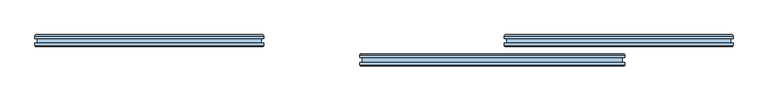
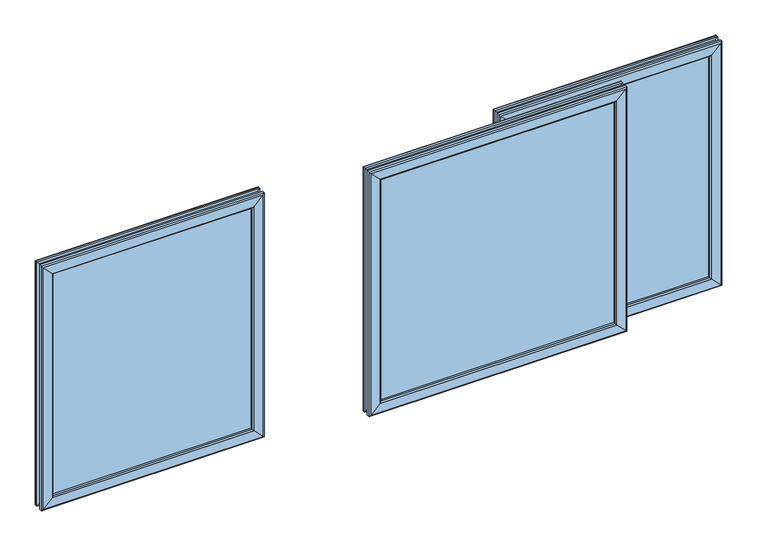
"""IFC4 building model written with IfcOpenShell, lengths in millimetres: window geometry, IT_Finestra scorrevole 3 ante con listelli tipo 2 : IT_Finestra scorrevole 3 ante con listelli tipo 2."""

from ifc_helpers import new_model, si_unit, frame, origin, place, context, project, spatial, polyline, ellipse_curve, outline, extrude, source, transform, mapped, element, save
from ifc_brep_helpers import plane_surface, cylinder_surface, advanced_brep


def window_61b1430e(model_context):
    return source(origin(), model_context, "Body", "SolidModel", [
        extrude(outline(polyline([(-568.829032, 130.0), (-1438.8576085, 130.0), (-1438.8576085, 150.0), (-568.829032, 150.0), (-568.829032, 130.0)])), frame((0.0, 0.0, 890.0), z_axis=(0.0, 0.0, 1.0), x_axis=(1.0, 0.0, 0.0)), (0.0, 0.0, 1.0), 1020.0),
        advanced_brep(
        [(-1473.8576085, 165.0, 1945.0), (-1433.8576085, 165.0, 1905.0), (-1433.8576085, 165.0, 895.0), (-1473.8576085, 165.0, 855.0), (-1478.8576085, 160.0, 1950.0), (-1478.8576085, 160.0, 850.0), (-1478.8576085, 150.0, 1950.0), (-1478.8576085, 150.0, 850.0), (-1468.886185, 150.0, 1940.0285765), (-1468.886185, 150.0, 859.9714235), (-1468.886185, 130.0, 1940.0285765), (-1468.886185, 130.0, 859.9714235), (-1478.8576085, 130.0, 1950.0), (-1478.8576085, 130.0, 850.0), (-1478.8576085, 120.0, 1950.0), (-1478.8576085, 120.0, 850.0), (-1473.8576085, 115.0, 1945.0), (-1473.8576085, 115.0, 855.0), (-1433.8576085, 115.0, 1905.0), (-1433.8576085, 115.0, 895.0), (-1428.8576085, 120.0, 1900.0), (-1428.8576085, 120.0, 900.0), (-1428.8576085, 130.0, 1900.0), (-1428.8576085, 130.0, 900.0), (-1438.8576085, 130.0, 1910.0), (-1438.8576085, 130.0, 890.0), (-1438.8576085, 150.0, 1910.0), (-1438.8576085, 150.0, 890.0), (-1428.8576085, 150.0, 1900.0), (-1428.8576085, 150.0, 900.0), (-1428.8576085, 160.0, 1900.0), (-1428.8576085, 160.0, 900.0), (-573.829032, 165.0, 895.0), (-533.829032, 165.0, 855.0), (-528.829032, 160.0, 850.0), (-528.829032, 150.0, 850.0), (-538.8004555, 150.0, 859.9714235), (-538.8004555, 130.0, 859.9714235), (-528.829032, 130.0, 850.0), (-528.829032, 120.0, 850.0), (-533.829032, 115.0, 855.0), (-573.829032, 115.0, 895.0), (-578.829032, 120.0, 900.0), (-578.829032, 130.0, 900.0), (-568.829032, 130.0, 890.0), (-568.829032, 150.0, 890.0), (-578.829032, 150.0, 900.0), (-578.829032, 160.0, 900.0), (-573.829032, 165.0, 1905.0), (-533.829032, 165.0, 1945.0), (-528.829032, 160.0, 1950.0), (-528.829032, 150.0, 1950.0), (-538.8004555, 150.0, 1940.0285765), (-538.8004555, 130.0, 1940.0285765), (-528.829032, 130.0, 1950.0), (-528.829032, 120.0, 1950.0), (-533.829032, 115.0, 1945.0), (-573.829032, 115.0, 1905.0), (-578.829032, 120.0, 1900.0), (-578.829032, 130.0, 1900.0), (-568.829032, 130.0, 1910.0), (-568.829032, 150.0, 1910.0), (-578.829032, 150.0, 1900.0), (-578.829032, 160.0, 1900.0)],
        [
            (0, 1),
            (1, 2),
            (2, 3),
            (3, 0),
            (4, 0, ellipse_curve(frame((-1473.8576085, 160.0, 1945.0), z_axis=(-0.7071067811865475, 0.0, -0.7071067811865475), x_axis=(-0.7071067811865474, 0.0, 0.7071067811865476)), 7.0710678, 5.0)),
            (3, 5, ellipse_curve(frame((-1473.8576085, 160.0, 855.0), z_axis=(-0.7071067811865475, 0.0, 0.7071067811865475), x_axis=(0.7071067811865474, 0.0, 0.7071067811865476)), 7.0710678, 5.0)),
            (5, 4),
            (6, 4),
            (5, 7),
            (7, 6),
            (8, 6),
            (7, 9),
            (9, 8),
            (10, 8),
            (9, 11),
            (11, 10),
            (12, 10),
            (11, 13),
            (13, 12),
            (14, 12),
            (13, 15),
            (15, 14),
            (16, 14, ellipse_curve(frame((-1473.8576085, 120.0, 1945.0), z_axis=(-0.7071067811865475, 0.0, -0.7071067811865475), x_axis=(-0.7071067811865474, 0.0, 0.7071067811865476)), 7.0710678, 5.0)),
            (15, 17, ellipse_curve(frame((-1473.8576085, 120.0, 855.0), z_axis=(-0.7071067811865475, 0.0, 0.7071067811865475), x_axis=(0.7071067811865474, 0.0, 0.7071067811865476)), 7.0710678, 5.0)),
            (17, 16),
            (18, 16),
            (17, 19),
            (19, 18),
            (20, 18, ellipse_curve(frame((-1433.8576085, 120.0, 1905.0), z_axis=(-0.7071067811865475, 0.0, -0.7071067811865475), x_axis=(-0.7071067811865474, 0.0, 0.7071067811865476)), 7.0710678, 5.0)),
            (19, 21, ellipse_curve(frame((-1433.8576085, 120.0, 895.0), z_axis=(-0.7071067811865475, 0.0, 0.7071067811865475), x_axis=(0.7071067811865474, 0.0, 0.7071067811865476)), 7.0710678, 5.0)),
            (21, 20),
            (22, 20),
            (21, 23),
            (23, 22),
            (24, 22),
            (23, 25),
            (25, 24),
            (26, 24),
            (25, 27),
            (27, 26),
            (28, 26),
            (27, 29),
            (29, 28),
            (30, 28),
            (29, 31),
            (31, 30),
            (1, 30, ellipse_curve(frame((-1433.8576085, 160.0, 1905.0), z_axis=(-0.7071067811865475, 0.0, -0.7071067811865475), x_axis=(-0.7071067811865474, 0.0, 0.7071067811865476)), 7.0710678, 5.0)),
            (31, 2, ellipse_curve(frame((-1433.8576085, 160.0, 895.0), z_axis=(-0.7071067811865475, 0.0, 0.7071067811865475), x_axis=(0.7071067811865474, 0.0, 0.7071067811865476)), 7.0710678, 5.0)),
            (2, 32),
            (32, 33),
            (33, 3),
            (33, 34, ellipse_curve(frame((-533.829032, 160.0, 855.0), z_axis=(-0.7071067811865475, 0.0, -0.7071067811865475), x_axis=(-0.7071067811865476, 0.0, 0.7071067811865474)), 7.0710678, 5.0)),
            (34, 5),
            (34, 35),
            (35, 7),
            (35, 36),
            (36, 9),
            (36, 37),
            (37, 11),
            (37, 38),
            (38, 13),
            (38, 39),
            (39, 15),
            (39, 40, ellipse_curve(frame((-533.829032, 120.0, 855.0), z_axis=(-0.7071067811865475, 0.0, -0.7071067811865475), x_axis=(-0.7071067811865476, 0.0, 0.7071067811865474)), 7.0710678, 5.0)),
            (40, 17),
            (40, 41),
            (41, 19),
            (41, 42, ellipse_curve(frame((-573.829032, 120.0, 895.0), z_axis=(-0.7071067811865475, 0.0, -0.7071067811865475), x_axis=(-0.7071067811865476, 0.0, 0.7071067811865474)), 7.0710678, 5.0)),
            (42, 21),
            (42, 43),
            (43, 23),
            (43, 44),
            (44, 25),
            (44, 45),
            (45, 27),
            (45, 46),
            (46, 29),
            (46, 47),
            (47, 31),
            (47, 32, ellipse_curve(frame((-573.829032, 160.0, 895.0), z_axis=(-0.7071067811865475, 0.0, -0.7071067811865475), x_axis=(-0.7071067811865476, 0.0, 0.7071067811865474)), 7.0710678, 5.0)),
            (32, 48),
            (48, 49),
            (49, 33),
            (49, 50, ellipse_curve(frame((-533.829032, 160.0, 1945.0), z_axis=(0.7071067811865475, 0.0, -0.7071067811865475), x_axis=(-0.7071067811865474, 0.0, -0.7071067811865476)), 7.0710678, 5.0)),
            (50, 34),
            (50, 51),
            (51, 35),
            (51, 52),
            (52, 36),
            (52, 53),
            (53, 37),
            (53, 54),
            (54, 38),
            (54, 55),
            (55, 39),
            (55, 56, ellipse_curve(frame((-533.829032, 120.0, 1945.0), z_axis=(0.7071067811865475, 0.0, -0.7071067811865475), x_axis=(-0.7071067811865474, 0.0, -0.7071067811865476)), 7.0710678, 5.0)),
            (56, 40),
            (56, 57),
            (57, 41),
            (57, 58, ellipse_curve(frame((-573.829032, 120.0, 1905.0), z_axis=(0.7071067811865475, 0.0, -0.7071067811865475), x_axis=(-0.7071067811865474, 0.0, -0.7071067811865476)), 7.0710678, 5.0)),
            (58, 42),
            (58, 59),
            (59, 43),
            (59, 60),
            (60, 44),
            (60, 61),
            (61, 45),
            (61, 62),
            (62, 46),
            (62, 63),
            (63, 47),
            (63, 48, ellipse_curve(frame((-573.829032, 160.0, 1905.0), z_axis=(0.7071067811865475, 0.0, -0.7071067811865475), x_axis=(-0.7071067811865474, 0.0, -0.7071067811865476)), 7.0710678, 5.0)),
            (48, 1),
            (0, 49),
            (4, 50),
            (6, 51),
            (8, 52),
            (10, 53),
            (12, 54),
            (14, 55),
            (16, 56),
            (18, 57),
            (20, 58),
            (22, 59),
            (24, 60),
            (26, 61),
            (28, 62),
            (30, 63),
        ],
        [
            plane_surface(frame((-1433.8576085, 165.0, 1905.0), z_axis=(0.0, 1.0, 0.0), x_axis=(0.0, 0.0, -1.0))),
            cylinder_surface(frame((-1473.8576085, 160.0, 1950.0), z_axis=(0.0, 0.0, 1.0), x_axis=(1.0, 0.0, 0.0)), 5.0),
            plane_surface(frame((-1478.8576085, 160.0, 1950.0), z_axis=(-1.0, 0.0, 0.0), x_axis=(0.0, 0.0, -1.0))),
            plane_surface(frame((-1478.8576085, 150.0, 1950.0), z_axis=(0.0, -1.0, 0.0), x_axis=(0.0, 0.0, -1.0))),
            plane_surface(frame((-1468.886185, 150.0, 1940.0285765), z_axis=(-1.0, 0.0, 0.0), x_axis=(0.0, 0.0, -1.0))),
            plane_surface(frame((-1468.886185, 130.0, 1940.0285765), z_axis=(0.0, 1.0, 0.0), x_axis=(0.0, 0.0, -1.0))),
            plane_surface(frame((-1478.8576085, 130.0, 1950.0), z_axis=(-1.0, 0.0, 0.0), x_axis=(0.0, 0.0, -1.0))),
            cylinder_surface(frame((-1473.8576085, 120.0, 1950.0), z_axis=(0.0, 0.0, 1.0), x_axis=(1.0, 0.0, 0.0)), 5.0),
            plane_surface(frame((-1473.8576085, 115.0, 1945.0), z_axis=(0.0, -1.0, 0.0), x_axis=(0.0, 0.0, -1.0))),
            cylinder_surface(frame((-1433.8576085, 120.0, 1950.0), z_axis=(0.0, 0.0, 1.0), x_axis=(1.0, 0.0, 0.0)), 5.0),
            plane_surface(frame((-1428.8576085, 120.0, 1900.0), z_axis=(1.0, 0.0, 0.0), x_axis=(0.0, 0.0, -1.0))),
            plane_surface(frame((-1428.8576085, 130.0, 1900.0), z_axis=(0.0, 1.0, 0.0), x_axis=(0.0, 0.0, -1.0))),
            plane_surface(frame((-1438.8576085, 130.0, 1910.0), z_axis=(1.0, 0.0, 0.0), x_axis=(0.0, 0.0, -1.0))),
            plane_surface(frame((-1438.8576085, 150.0, 1910.0), z_axis=(0.0, -1.0, 0.0), x_axis=(0.0, 0.0, -1.0))),
            plane_surface(frame((-1428.8576085, 150.0, 1900.0), z_axis=(1.0, 0.0, 0.0), x_axis=(0.0, 0.0, -1.0))),
            cylinder_surface(frame((-1433.8576085, 160.0, 1950.0), z_axis=(0.0, 0.0, 1.0), x_axis=(1.0, 0.0, 0.0)), 5.0),
            plane_surface(frame((-1433.8576085, 165.0, 895.0), z_axis=(0.0, 1.0, 0.0), x_axis=(1.0, 0.0, 0.0))),
            cylinder_surface(frame((-1478.8576085, 160.0, 855.0), z_axis=(-1.0, 0.0, 0.0), x_axis=(0.0, 0.0, 1.0)), 5.0),
            plane_surface(frame((-1478.8576085, 160.0, 850.0), z_axis=(0.0, 0.0, -1.0), x_axis=(1.0, 0.0, 0.0))),
            plane_surface(frame((-1478.8576085, 150.0, 850.0), z_axis=(0.0, -1.0, 0.0), x_axis=(1.0, 0.0, 0.0))),
            plane_surface(frame((-1468.886185, 150.0, 859.9714235), z_axis=(0.0, 0.0, -1.0), x_axis=(1.0, 0.0, 0.0))),
            plane_surface(frame((-1468.886185, 130.0, 859.9714235), z_axis=(0.0, 1.0, 0.0), x_axis=(1.0, 0.0, 0.0))),
            plane_surface(frame((-1478.8576085, 130.0, 850.0), z_axis=(0.0, 0.0, -1.0), x_axis=(1.0, 0.0, 0.0))),
            cylinder_surface(frame((-1478.8576085, 120.0, 855.0), z_axis=(-1.0, 0.0, 0.0), x_axis=(0.0, 0.0, 1.0)), 5.0),
            plane_surface(frame((-1473.8576085, 115.0, 855.0), z_axis=(0.0, -1.0, 0.0), x_axis=(1.0, 0.0, 0.0))),
            cylinder_surface(frame((-1478.8576085, 120.0, 895.0), z_axis=(-1.0, 0.0, 0.0), x_axis=(0.0, 0.0, 1.0)), 5.0),
            plane_surface(frame((-1428.8576085, 120.0, 900.0), z_axis=(0.0, 0.0, 1.0), x_axis=(1.0, 0.0, 0.0))),
            plane_surface(frame((-1428.8576085, 130.0, 900.0), z_axis=(0.0, 1.0, 0.0), x_axis=(1.0, 0.0, 0.0))),
            plane_surface(frame((-1438.8576085, 130.0, 890.0), z_axis=(0.0, 0.0, 1.0), x_axis=(1.0, 0.0, 0.0))),
            plane_surface(frame((-1438.8576085, 150.0, 890.0), z_axis=(0.0, -1.0, 0.0), x_axis=(1.0, 0.0, 0.0))),
            plane_surface(frame((-1428.8576085, 150.0, 900.0), z_axis=(0.0, 0.0, 1.0), x_axis=(1.0, 0.0, 0.0))),
            cylinder_surface(frame((-1478.8576085, 160.0, 895.0), z_axis=(-1.0, 0.0, 0.0), x_axis=(0.0, 0.0, 1.0)), 5.0),
            plane_surface(frame((-573.829032, 165.0, 895.0), z_axis=(0.0, 1.0, 0.0), x_axis=(0.0, 0.0, 1.0))),
            cylinder_surface(frame((-533.829032, 160.0, 850.0), z_axis=(0.0, 0.0, -1.0), x_axis=(-1.0, 0.0, 0.0)), 5.0),
            plane_surface(frame((-528.829032, 160.0, 850.0), z_axis=(1.0, 0.0, 0.0), x_axis=(0.0, 0.0, 1.0))),
            plane_surface(frame((-528.829032, 150.0, 850.0), z_axis=(0.0, -1.0, 0.0), x_axis=(0.0, 0.0, 1.0))),
            plane_surface(frame((-538.8004555, 150.0, 859.9714235), z_axis=(1.0, 0.0, 0.0), x_axis=(0.0, 0.0, 1.0))),
            plane_surface(frame((-538.8004555, 130.0, 859.9714235), z_axis=(0.0, 1.0, 0.0), x_axis=(0.0, 0.0, 1.0))),
            plane_surface(frame((-528.829032, 130.0, 850.0), z_axis=(1.0, 0.0, 0.0), x_axis=(0.0, 0.0, 1.0))),
            cylinder_surface(frame((-533.829032, 120.0, 850.0), z_axis=(0.0, 0.0, -1.0), x_axis=(-1.0, 0.0, 0.0)), 5.0),
            plane_surface(frame((-533.829032, 115.0, 855.0), z_axis=(0.0, -1.0, 0.0), x_axis=(0.0, 0.0, 1.0))),
            cylinder_surface(frame((-573.829032, 120.0, 850.0), z_axis=(0.0, 0.0, -1.0), x_axis=(-1.0, 0.0, 0.0)), 5.0),
            plane_surface(frame((-578.829032, 120.0, 900.0), z_axis=(-1.0, 0.0, 0.0), x_axis=(0.0, 0.0, 1.0))),
            plane_surface(frame((-578.829032, 130.0, 900.0), z_axis=(0.0, 1.0, 0.0), x_axis=(0.0, 0.0, 1.0))),
            plane_surface(frame((-568.829032, 130.0, 890.0), z_axis=(-1.0, 0.0, 0.0), x_axis=(0.0, 0.0, 1.0))),
            plane_surface(frame((-568.829032, 150.0, 890.0), z_axis=(0.0, -1.0, 0.0), x_axis=(0.0, 0.0, 1.0))),
            plane_surface(frame((-578.829032, 150.0, 900.0), z_axis=(-1.0, 0.0, 0.0), x_axis=(0.0, 0.0, 1.0))),
            cylinder_surface(frame((-573.829032, 160.0, 850.0), z_axis=(0.0, 0.0, -1.0), x_axis=(-1.0, 0.0, 0.0)), 5.0),
            plane_surface(frame((-573.829032, 165.0, 1905.0), z_axis=(0.0, 1.0, 0.0), x_axis=(-1.0, 0.0, 0.0))),
            cylinder_surface(frame((-528.829032, 160.0, 1945.0), z_axis=(1.0, 0.0, 0.0), x_axis=(0.0, 0.0, -1.0)), 5.0),
            plane_surface(frame((-528.829032, 160.0, 1950.0), z_axis=(0.0, 0.0, 1.0), x_axis=(-1.0, 0.0, 0.0))),
            plane_surface(frame((-528.829032, 150.0, 1950.0), z_axis=(0.0, -1.0, 0.0), x_axis=(-1.0, 0.0, 0.0))),
            plane_surface(frame((-538.8004555, 150.0, 1940.0285765), z_axis=(0.0, 0.0, 1.0), x_axis=(-1.0, 0.0, 0.0))),
            plane_surface(frame((-538.8004555, 130.0, 1940.0285765), z_axis=(0.0, 1.0, 0.0), x_axis=(-1.0, 0.0, 0.0))),
            plane_surface(frame((-528.829032, 130.0, 1950.0), z_axis=(0.0, 0.0, 1.0), x_axis=(-1.0, 0.0, 0.0))),
            cylinder_surface(frame((-528.829032, 120.0, 1945.0), z_axis=(1.0, 0.0, 0.0), x_axis=(0.0, 0.0, -1.0)), 5.0),
            plane_surface(frame((-533.829032, 115.0, 1945.0), z_axis=(0.0, -1.0, 0.0), x_axis=(-1.0, 0.0, 0.0))),
            cylinder_surface(frame((-528.829032, 120.0, 1905.0), z_axis=(1.0, 0.0, 0.0), x_axis=(0.0, 0.0, -1.0)), 5.0),
            plane_surface(frame((-578.829032, 120.0, 1900.0), z_axis=(0.0, 0.0, -1.0), x_axis=(-1.0, 0.0, 0.0))),
            plane_surface(frame((-578.829032, 130.0, 1900.0), z_axis=(0.0, 1.0, 0.0), x_axis=(-1.0, 0.0, 0.0))),
            plane_surface(frame((-568.829032, 130.0, 1910.0), z_axis=(0.0, 0.0, -1.0), x_axis=(-1.0, 0.0, 0.0))),
            plane_surface(frame((-568.829032, 150.0, 1910.0), z_axis=(0.0, -1.0, 0.0), x_axis=(-1.0, 0.0, 0.0))),
            plane_surface(frame((-578.829032, 150.0, 1900.0), z_axis=(0.0, 0.0, -1.0), x_axis=(-1.0, 0.0, 0.0))),
            cylinder_surface(frame((-528.829032, 160.0, 1905.0), z_axis=(1.0, 0.0, 0.0), x_axis=(0.0, 0.0, -1.0)), 5.0),
        ],
        [
            (0, [[1, 2, 3, 4]]),
            (1, [[5, -4, 6, 7]]),
            (2, [[8, -7, 9, 10]]),
            (3, [[11, -10, 12, 13]]),
            (4, [[14, -13, 15, 16]]),
            (5, [[17, -16, 18, 19]]),
            (6, [[20, -19, 21, 22]]),
            (7, [[23, -22, 24, 25]]),
            (8, [[26, -25, 27, 28]]),
            (9, [[29, -28, 30, 31]]),
            (10, [[32, -31, 33, 34]]),
            (11, [[35, -34, 36, 37]]),
            (12, [[38, -37, 39, 40]]),
            (13, [[41, -40, 42, 43]]),
            (14, [[44, -43, 45, 46]]),
            (15, [[47, -46, 48, -2]]),
            (16, [[-3, 49, 50, 51]]),
            (17, [[-6, -51, 52, 53]]),
            (18, [[-9, -53, 54, 55]]),
            (19, [[-12, -55, 56, 57]]),
            (20, [[-15, -57, 58, 59]]),
            (21, [[-18, -59, 60, 61]]),
            (22, [[-21, -61, 62, 63]]),
            (23, [[-24, -63, 64, 65]]),
            (24, [[-27, -65, 66, 67]]),
            (25, [[-30, -67, 68, 69]]),
            (26, [[-33, -69, 70, 71]]),
            (27, [[-36, -71, 72, 73]]),
            (28, [[-39, -73, 74, 75]]),
            (29, [[-42, -75, 76, 77]]),
            (30, [[-45, -77, 78, 79]]),
            (31, [[-48, -79, 80, -49]]),
            (32, [[-50, 81, 82, 83]]),
            (33, [[-52, -83, 84, 85]]),
            (34, [[-54, -85, 86, 87]]),
            (35, [[-56, -87, 88, 89]]),
            (36, [[-58, -89, 90, 91]]),
            (37, [[-60, -91, 92, 93]]),
            (38, [[-62, -93, 94, 95]]),
            (39, [[-64, -95, 96, 97]]),
            (40, [[-66, -97, 98, 99]]),
            (41, [[-68, -99, 100, 101]]),
            (42, [[-70, -101, 102, 103]]),
            (43, [[-72, -103, 104, 105]]),
            (44, [[-74, -105, 106, 107]]),
            (45, [[-76, -107, 108, 109]]),
            (46, [[-78, -109, 110, 111]]),
            (47, [[-80, -111, 112, -81]]),
            (48, [[-82, 113, -1, 114]]),
            (49, [[-84, -114, -5, 115]]),
            (50, [[-86, -115, -8, 116]]),
            (51, [[-88, -116, -11, 117]]),
            (52, [[-90, -117, -14, 118]]),
            (53, [[-92, -118, -17, 119]]),
            (54, [[-94, -119, -20, 120]]),
            (55, [[-96, -120, -23, 121]]),
            (56, [[-98, -121, -26, 122]]),
            (57, [[-100, -122, -29, 123]]),
            (58, [[-102, -123, -32, 124]]),
            (59, [[-104, -124, -35, 125]]),
            (60, [[-106, -125, -38, 126]]),
            (61, [[-108, -126, -41, 127]]),
            (62, [[-110, -127, -44, 128]]),
            (63, [[-112, -128, -47, -113]]),
        ],
    ),
        extrude(outline(polyline([(1381.1995445, 130.0), (511.170968, 130.0), (511.170968, 150.0), (1381.1995445, 150.0), (1381.1995445, 130.0)])), frame((0.0, 0.0, 890.0), z_axis=(0.0, 0.0, 1.0), x_axis=(1.0, 0.0, 0.0)), (0.0, 0.0, 1.0), 1020.0),
        advanced_brep(
        [(476.170968, 165.0, 1945.0), (516.170968, 165.0, 1905.0), (516.170968, 165.0, 895.0), (476.170968, 165.0, 855.0), (471.170968, 160.0, 1950.0), (471.170968, 160.0, 850.0), (471.170968, 150.0, 1950.0), (471.170968, 150.0, 850.0), (481.1423915, 150.0, 1940.0285765), (481.1423915, 150.0, 859.9714235), (481.1423915, 130.0, 1940.0285765), (481.1423915, 130.0, 859.9714235), (471.170968, 130.0, 1950.0), (471.170968, 130.0, 850.0), (471.170968, 120.0, 1950.0), (471.170968, 120.0, 850.0), (476.170968, 115.0, 1945.0), (476.170968, 115.0, 855.0), (516.170968, 115.0, 1905.0), (516.170968, 115.0, 895.0), (521.170968, 120.0, 1900.0), (521.170968, 120.0, 900.0), (521.170968, 130.0, 1900.0), (521.170968, 130.0, 900.0), (511.170968, 130.0, 1910.0), (511.170968, 130.0, 890.0), (511.170968, 150.0, 1910.0), (511.170968, 150.0, 890.0), (521.170968, 150.0, 1900.0), (521.170968, 150.0, 900.0), (521.170968, 160.0, 1900.0), (521.170968, 160.0, 900.0), (1376.1995445, 165.0, 895.0), (1416.1995445, 165.0, 855.0), (1421.1995445, 160.0, 850.0), (1421.1995445, 150.0, 850.0), (1411.228121, 150.0, 859.9714235), (1411.228121, 130.0, 859.9714235), (1421.1995445, 130.0, 850.0), (1421.1995445, 120.0, 850.0), (1416.1995445, 115.0, 855.0), (1376.1995445, 115.0, 895.0), (1371.1995445, 120.0, 900.0), (1371.1995445, 130.0, 900.0), (1381.1995445, 130.0, 890.0), (1381.1995445, 150.0, 890.0), (1371.1995445, 150.0, 900.0), (1371.1995445, 160.0, 900.0), (1376.1995445, 165.0, 1905.0), (1416.1995445, 165.0, 1945.0), (1421.1995445, 160.0, 1950.0), (1421.1995445, 150.0, 1950.0), (1411.228121, 150.0, 1940.0285765), (1411.228121, 130.0, 1940.0285765), (1421.1995445, 130.0, 1950.0), (1421.1995445, 120.0, 1950.0), (1416.1995445, 115.0, 1945.0), (1376.1995445, 115.0, 1905.0), (1371.1995445, 120.0, 1900.0), (1371.1995445, 130.0, 1900.0), (1381.1995445, 130.0, 1910.0), (1381.1995445, 150.0, 1910.0), (1371.1995445, 150.0, 1900.0), (1371.1995445, 160.0, 1900.0)],
        [
            (0, 1),
            (1, 2),
            (2, 3),
            (3, 0),
            (4, 0, ellipse_curve(frame((476.170968, 160.0, 1945.0), z_axis=(-0.7071067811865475, 0.0, -0.7071067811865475), x_axis=(-0.7071067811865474, 0.0, 0.7071067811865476)), 7.0710678, 5.0)),
            (3, 5, ellipse_curve(frame((476.170968, 160.0, 855.0), z_axis=(-0.7071067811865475, 0.0, 0.7071067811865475), x_axis=(0.7071067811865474, 0.0, 0.7071067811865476)), 7.0710678, 5.0)),
            (5, 4),
            (6, 4),
            (5, 7),
            (7, 6),
            (8, 6),
            (7, 9),
            (9, 8),
            (10, 8),
            (9, 11),
            (11, 10),
            (12, 10),
            (11, 13),
            (13, 12),
            (14, 12),
            (13, 15),
            (15, 14),
            (16, 14, ellipse_curve(frame((476.170968, 120.0, 1945.0), z_axis=(-0.7071067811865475, 0.0, -0.7071067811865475), x_axis=(-0.7071067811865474, 0.0, 0.7071067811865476)), 7.0710678, 5.0)),
            (15, 17, ellipse_curve(frame((476.170968, 120.0, 855.0), z_axis=(-0.7071067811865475, 0.0, 0.7071067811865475), x_axis=(0.7071067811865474, 0.0, 0.7071067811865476)), 7.0710678, 5.0)),
            (17, 16),
            (18, 16),
            (17, 19),
            (19, 18),
            (20, 18, ellipse_curve(frame((516.170968, 120.0, 1905.0), z_axis=(-0.7071067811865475, 0.0, -0.7071067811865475), x_axis=(-0.7071067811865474, 0.0, 0.7071067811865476)), 7.0710678, 5.0)),
            (19, 21, ellipse_curve(frame((516.170968, 120.0, 895.0), z_axis=(-0.7071067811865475, 0.0, 0.7071067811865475), x_axis=(0.7071067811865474, 0.0, 0.7071067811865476)), 7.0710678, 5.0)),
            (21, 20),
            (22, 20),
            (21, 23),
            (23, 22),
            (24, 22),
            (23, 25),
            (25, 24),
            (26, 24),
            (25, 27),
            (27, 26),
            (28, 26),
            (27, 29),
            (29, 28),
            (30, 28),
            (29, 31),
            (31, 30),
            (1, 30, ellipse_curve(frame((516.170968, 160.0, 1905.0), z_axis=(-0.7071067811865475, 0.0, -0.7071067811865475), x_axis=(-0.7071067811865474, 0.0, 0.7071067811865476)), 7.0710678, 5.0)),
            (31, 2, ellipse_curve(frame((516.170968, 160.0, 895.0), z_axis=(-0.7071067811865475, 0.0, 0.7071067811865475), x_axis=(0.7071067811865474, 0.0, 0.7071067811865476)), 7.0710678, 5.0)),
            (2, 32),
            (32, 33),
            (33, 3),
            (33, 34, ellipse_curve(frame((1416.1995445, 160.0, 855.0), z_axis=(-0.7071067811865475, 0.0, -0.7071067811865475), x_axis=(-0.7071067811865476, 0.0, 0.7071067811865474)), 7.0710678, 5.0)),
            (34, 5),
            (34, 35),
            (35, 7),
            (35, 36),
            (36, 9),
            (36, 37),
            (37, 11),
            (37, 38),
            (38, 13),
            (38, 39),
            (39, 15),
            (39, 40, ellipse_curve(frame((1416.1995445, 120.0, 855.0), z_axis=(-0.7071067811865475, 0.0, -0.7071067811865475), x_axis=(-0.7071067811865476, 0.0, 0.7071067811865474)), 7.0710678, 5.0)),
            (40, 17),
            (40, 41),
            (41, 19),
            (41, 42, ellipse_curve(frame((1376.1995445, 120.0, 895.0), z_axis=(-0.7071067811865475, 0.0, -0.7071067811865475), x_axis=(-0.7071067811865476, 0.0, 0.7071067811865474)), 7.0710678, 5.0)),
            (42, 21),
            (42, 43),
            (43, 23),
            (43, 44),
            (44, 25),
            (44, 45),
            (45, 27),
            (45, 46),
            (46, 29),
            (46, 47),
            (47, 31),
            (47, 32, ellipse_curve(frame((1376.1995445, 160.0, 895.0), z_axis=(-0.7071067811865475, 0.0, -0.7071067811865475), x_axis=(-0.7071067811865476, 0.0, 0.7071067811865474)), 7.0710678, 5.0)),
            (32, 48),
            (48, 49),
            (49, 33),
            (49, 50, ellipse_curve(frame((1416.1995445, 160.0, 1945.0), z_axis=(0.7071067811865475, 0.0, -0.7071067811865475), x_axis=(-0.7071067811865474, 0.0, -0.7071067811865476)), 7.0710678, 5.0)),
            (50, 34),
            (50, 51),
            (51, 35),
            (51, 52),
            (52, 36),
            (52, 53),
            (53, 37),
            (53, 54),
            (54, 38),
            (54, 55),
            (55, 39),
            (55, 56, ellipse_curve(frame((1416.1995445, 120.0, 1945.0), z_axis=(0.7071067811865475, 0.0, -0.7071067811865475), x_axis=(-0.7071067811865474, 0.0, -0.7071067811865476)), 7.0710678, 5.0)),
            (56, 40),
            (56, 57),
            (57, 41),
            (57, 58, ellipse_curve(frame((1376.1995445, 120.0, 1905.0), z_axis=(0.7071067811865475, 0.0, -0.7071067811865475), x_axis=(-0.7071067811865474, 0.0, -0.7071067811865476)), 7.0710678, 5.0)),
            (58, 42),
            (58, 59),
            (59, 43),
            (59, 60),
            (60, 44),
            (60, 61),
            (61, 45),
            (61, 62),
            (62, 46),
            (62, 63),
            (63, 47),
            (63, 48, ellipse_curve(frame((1376.1995445, 160.0, 1905.0), z_axis=(0.7071067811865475, 0.0, -0.7071067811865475), x_axis=(-0.7071067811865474, 0.0, -0.7071067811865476)), 7.0710678, 5.0)),
            (48, 1),
            (0, 49),
            (4, 50),
            (6, 51),
            (8, 52),
            (10, 53),
            (12, 54),
            (14, 55),
            (16, 56),
            (18, 57),
            (20, 58),
            (22, 59),
            (24, 60),
            (26, 61),
            (28, 62),
            (30, 63),
        ],
        [
            plane_surface(frame((516.170968, 165.0, 1905.0), z_axis=(0.0, 1.0, 0.0), x_axis=(0.0, 0.0, -1.0))),
            cylinder_surface(frame((476.170968, 160.0, 1950.0), z_axis=(0.0, 0.0, 1.0), x_axis=(1.0, 0.0, 0.0)), 5.0),
            plane_surface(frame((471.170968, 160.0, 1950.0), z_axis=(-1.0, 0.0, 0.0), x_axis=(0.0, 0.0, -1.0))),
            plane_surface(frame((471.170968, 150.0, 1950.0), z_axis=(0.0, -1.0, 0.0), x_axis=(0.0, 0.0, -1.0))),
            plane_surface(frame((481.1423915, 150.0, 1940.0285765), z_axis=(-1.0, 0.0, 0.0), x_axis=(0.0, 0.0, -1.0))),
            plane_surface(frame((481.1423915, 130.0, 1940.0285765), z_axis=(0.0, 1.0, 0.0), x_axis=(0.0, 0.0, -1.0))),
            plane_surface(frame((471.170968, 130.0, 1950.0), z_axis=(-1.0, 0.0, 0.0), x_axis=(0.0, 0.0, -1.0))),
            cylinder_surface(frame((476.170968, 120.0, 1950.0), z_axis=(0.0, 0.0, 1.0), x_axis=(1.0, 0.0, 0.0)), 5.0),
            plane_surface(frame((476.170968, 115.0, 1945.0), z_axis=(0.0, -1.0, 0.0), x_axis=(0.0, 0.0, -1.0))),
            cylinder_surface(frame((516.170968, 120.0, 1950.0), z_axis=(0.0, 0.0, 1.0), x_axis=(1.0, 0.0, 0.0)), 5.0),
            plane_surface(frame((521.170968, 120.0, 1900.0), z_axis=(1.0, 0.0, 0.0), x_axis=(0.0, 0.0, -1.0))),
            plane_surface(frame((521.170968, 130.0, 1900.0), z_axis=(0.0, 1.0, 0.0), x_axis=(0.0, 0.0, -1.0))),
            plane_surface(frame((511.170968, 130.0, 1910.0), z_axis=(1.0, 0.0, 0.0), x_axis=(0.0, 0.0, -1.0))),
            plane_surface(frame((511.170968, 150.0, 1910.0), z_axis=(0.0, -1.0, 0.0), x_axis=(0.0, 0.0, -1.0))),
            plane_surface(frame((521.170968, 150.0, 1900.0), z_axis=(1.0, 0.0, 0.0), x_axis=(0.0, 0.0, -1.0))),
            cylinder_surface(frame((516.170968, 160.0, 1950.0), z_axis=(0.0, 0.0, 1.0), x_axis=(1.0, 0.0, 0.0)), 5.0),
            plane_surface(frame((516.170968, 165.0, 895.0), z_axis=(0.0, 1.0, 0.0), x_axis=(1.0, 0.0, 0.0))),
            cylinder_surface(frame((471.170968, 160.0, 855.0), z_axis=(-1.0, 0.0, 0.0), x_axis=(0.0, 0.0, 1.0)), 5.0),
            plane_surface(frame((471.170968, 160.0, 850.0), z_axis=(0.0, 0.0, -1.0), x_axis=(1.0, 0.0, 0.0))),
            plane_surface(frame((471.170968, 150.0, 850.0), z_axis=(0.0, -1.0, 0.0), x_axis=(1.0, 0.0, 0.0))),
            plane_surface(frame((481.1423915, 150.0, 859.9714235), z_axis=(0.0, 0.0, -1.0), x_axis=(1.0, 0.0, 0.0))),
            plane_surface(frame((481.1423915, 130.0, 859.9714235), z_axis=(0.0, 1.0, 0.0), x_axis=(1.0, 0.0, 0.0))),
            plane_surface(frame((471.170968, 130.0, 850.0), z_axis=(0.0, 0.0, -1.0), x_axis=(1.0, 0.0, 0.0))),
            cylinder_surface(frame((471.170968, 120.0, 855.0), z_axis=(-1.0, 0.0, 0.0), x_axis=(0.0, 0.0, 1.0)), 5.0),
            plane_surface(frame((476.170968, 115.0, 855.0), z_axis=(0.0, -1.0, 0.0), x_axis=(1.0, 0.0, 0.0))),
            cylinder_surface(frame((471.170968, 120.0, 895.0), z_axis=(-1.0, 0.0, 0.0), x_axis=(0.0, 0.0, 1.0)), 5.0),
            plane_surface(frame((521.170968, 120.0, 900.0), z_axis=(0.0, 0.0, 1.0), x_axis=(1.0, 0.0, 0.0))),
            plane_surface(frame((521.170968, 130.0, 900.0), z_axis=(0.0, 1.0, 0.0), x_axis=(1.0, 0.0, 0.0))),
            plane_surface(frame((511.170968, 130.0, 890.0), z_axis=(0.0, 0.0, 1.0), x_axis=(1.0, 0.0, 0.0))),
            plane_surface(frame((511.170968, 150.0, 890.0), z_axis=(0.0, -1.0, 0.0), x_axis=(1.0, 0.0, 0.0))),
            plane_surface(frame((521.170968, 150.0, 900.0), z_axis=(0.0, 0.0, 1.0), x_axis=(1.0, 0.0, 0.0))),
            cylinder_surface(frame((471.170968, 160.0, 895.0), z_axis=(-1.0, 0.0, 0.0), x_axis=(0.0, 0.0, 1.0)), 5.0),
            plane_surface(frame((1376.1995445, 165.0, 895.0), z_axis=(0.0, 1.0, 0.0), x_axis=(0.0, 0.0, 1.0))),
            cylinder_surface(frame((1416.1995445, 160.0, 850.0), z_axis=(0.0, 0.0, -1.0), x_axis=(-1.0, 0.0, 0.0)), 5.0),
            plane_surface(frame((1421.1995445, 160.0, 850.0), z_axis=(1.0, 0.0, 0.0), x_axis=(0.0, 0.0, 1.0))),
            plane_surface(frame((1421.1995445, 150.0, 850.0), z_axis=(0.0, -1.0, 0.0), x_axis=(0.0, 0.0, 1.0))),
            plane_surface(frame((1411.228121, 150.0, 859.9714235), z_axis=(1.0, 0.0, 0.0), x_axis=(0.0, 0.0, 1.0))),
            plane_surface(frame((1411.228121, 130.0, 859.9714235), z_axis=(0.0, 1.0, 0.0), x_axis=(0.0, 0.0, 1.0))),
            plane_surface(frame((1421.1995445, 130.0, 850.0), z_axis=(1.0, 0.0, 0.0), x_axis=(0.0, 0.0, 1.0))),
            cylinder_surface(frame((1416.1995445, 120.0, 850.0), z_axis=(0.0, 0.0, -1.0), x_axis=(-1.0, 0.0, 0.0)), 5.0),
            plane_surface(frame((1416.1995445, 115.0, 855.0), z_axis=(0.0, -1.0, 0.0), x_axis=(0.0, 0.0, 1.0))),
            cylinder_surface(frame((1376.1995445, 120.0, 850.0), z_axis=(0.0, 0.0, -1.0), x_axis=(-1.0, 0.0, 0.0)), 5.0),
            plane_surface(frame((1371.1995445, 120.0, 900.0), z_axis=(-1.0, 0.0, 0.0), x_axis=(0.0, 0.0, 1.0))),
            plane_surface(frame((1371.1995445, 130.0, 900.0), z_axis=(0.0, 1.0, 0.0), x_axis=(0.0, 0.0, 1.0))),
            plane_surface(frame((1381.1995445, 130.0, 890.0), z_axis=(-1.0, 0.0, 0.0), x_axis=(0.0, 0.0, 1.0))),
            plane_surface(frame((1381.1995445, 150.0, 890.0), z_axis=(0.0, -1.0, 0.0), x_axis=(0.0, 0.0, 1.0))),
            plane_surface(frame((1371.1995445, 150.0, 900.0), z_axis=(-1.0, 0.0, 0.0), x_axis=(0.0, 0.0, 1.0))),
            cylinder_surface(frame((1376.1995445, 160.0, 850.0), z_axis=(0.0, 0.0, -1.0), x_axis=(-1.0, 0.0, 0.0)), 5.0),
            plane_surface(frame((1376.1995445, 165.0, 1905.0), z_axis=(0.0, 1.0, 0.0), x_axis=(-1.0, 0.0, 0.0))),
            cylinder_surface(frame((1421.1995445, 160.0, 1945.0), z_axis=(1.0, 0.0, 0.0), x_axis=(0.0, 0.0, -1.0)), 5.0),
            plane_surface(frame((1421.1995445, 160.0, 1950.0), z_axis=(0.0, 0.0, 1.0), x_axis=(-1.0, 0.0, 0.0))),
            plane_surface(frame((1421.1995445, 150.0, 1950.0), z_axis=(0.0, -1.0, 0.0), x_axis=(-1.0, 0.0, 0.0))),
            plane_surface(frame((1411.228121, 150.0, 1940.0285765), z_axis=(0.0, 0.0, 1.0), x_axis=(-1.0, 0.0, 0.0))),
            plane_surface(frame((1411.228121, 130.0, 1940.0285765), z_axis=(0.0, 1.0, 0.0), x_axis=(-1.0, 0.0, 0.0))),
            plane_surface(frame((1421.1995445, 130.0, 1950.0), z_axis=(0.0, 0.0, 1.0), x_axis=(-1.0, 0.0, 0.0))),
            cylinder_surface(frame((1421.1995445, 120.0, 1945.0), z_axis=(1.0, 0.0, 0.0), x_axis=(0.0, 0.0, -1.0)), 5.0),
            plane_surface(frame((1416.1995445, 115.0, 1945.0), z_axis=(0.0, -1.0, 0.0), x_axis=(-1.0, 0.0, 0.0))),
            cylinder_surface(frame((1421.1995445, 120.0, 1905.0), z_axis=(1.0, 0.0, 0.0), x_axis=(0.0, 0.0, -1.0)), 5.0),
            plane_surface(frame((1371.1995445, 120.0, 1900.0), z_axis=(0.0, 0.0, -1.0), x_axis=(-1.0, 0.0, 0.0))),
            plane_surface(frame((1371.1995445, 130.0, 1900.0), z_axis=(0.0, 1.0, 0.0), x_axis=(-1.0, 0.0, 0.0))),
            plane_surface(frame((1381.1995445, 130.0, 1910.0), z_axis=(0.0, 0.0, -1.0), x_axis=(-1.0, 0.0, 0.0))),
            plane_surface(frame((1381.1995445, 150.0, 1910.0), z_axis=(0.0, -1.0, 0.0), x_axis=(-1.0, 0.0, 0.0))),
            plane_surface(frame((1371.1995445, 150.0, 1900.0), z_axis=(0.0, 0.0, -1.0), x_axis=(-1.0, 0.0, 0.0))),
            cylinder_surface(frame((1421.1995445, 160.0, 1905.0), z_axis=(1.0, 0.0, 0.0), x_axis=(0.0, 0.0, -1.0)), 5.0),
        ],
        [
            (0, [[1, 2, 3, 4]]),
            (1, [[5, -4, 6, 7]]),
            (2, [[8, -7, 9, 10]]),
            (3, [[11, -10, 12, 13]]),
            (4, [[14, -13, 15, 16]]),
            (5, [[17, -16, 18, 19]]),
            (6, [[20, -19, 21, 22]]),
            (7, [[23, -22, 24, 25]]),
            (8, [[26, -25, 27, 28]]),
            (9, [[29, -28, 30, 31]]),
            (10, [[32, -31, 33, 34]]),
            (11, [[35, -34, 36, 37]]),
            (12, [[38, -37, 39, 40]]),
            (13, [[41, -40, 42, 43]]),
            (14, [[44, -43, 45, 46]]),
            (15, [[47, -46, 48, -2]]),
            (16, [[-3, 49, 50, 51]]),
            (17, [[-6, -51, 52, 53]]),
            (18, [[-9, -53, 54, 55]]),
            (19, [[-12, -55, 56, 57]]),
            (20, [[-15, -57, 58, 59]]),
            (21, [[-18, -59, 60, 61]]),
            (22, [[-21, -61, 62, 63]]),
            (23, [[-24, -63, 64, 65]]),
            (24, [[-27, -65, 66, 67]]),
            (25, [[-30, -67, 68, 69]]),
            (26, [[-33, -69, 70, 71]]),
            (27, [[-36, -71, 72, 73]]),
            (28, [[-39, -73, 74, 75]]),
            (29, [[-42, -75, 76, 77]]),
            (30, [[-45, -77, 78, 79]]),
            (31, [[-48, -79, 80, -49]]),
            (32, [[-50, 81, 82, 83]]),
            (33, [[-52, -83, 84, 85]]),
            (34, [[-54, -85, 86, 87]]),
            (35, [[-56, -87, 88, 89]]),
            (36, [[-58, -89, 90, 91]]),
            (37, [[-60, -91, 92, 93]]),
            (38, [[-62, -93, 94, 95]]),
            (39, [[-64, -95, 96, 97]]),
            (40, [[-66, -97, 98, 99]]),
            (41, [[-68, -99, 100, 101]]),
            (42, [[-70, -101, 102, 103]]),
            (43, [[-72, -103, 104, 105]]),
            (44, [[-74, -105, 106, 107]]),
            (45, [[-76, -107, 108, 109]]),
            (46, [[-78, -109, 110, 111]]),
            (47, [[-80, -111, 112, -81]]),
            (48, [[-82, 113, -1, 114]]),
            (49, [[-84, -114, -5, 115]]),
            (50, [[-86, -115, -8, 116]]),
            (51, [[-88, -116, -11, 117]]),
            (52, [[-90, -117, -14, 118]]),
            (53, [[-92, -118, -17, 119]]),
            (54, [[-94, -119, -20, 120]]),
            (55, [[-96, -120, -23, 121]]),
            (56, [[-98, -121, -26, 122]]),
            (57, [[-100, -122, -29, 123]]),
            (58, [[-102, -123, -32, 124]]),
            (59, [[-104, -124, -35, 125]]),
            (60, [[-106, -125, -38, 126]]),
            (61, [[-108, -126, -41, 127]]),
            (62, [[-110, -127, -44, 128]]),
            (63, [[-112, -128, -47, -113]]),
        ],
    ),
        extrude(outline(polyline([(931.170968, 50.0), (-88.828832, 50.0), (-88.828832, 70.0), (931.170968, 70.0), (931.170968, 50.0)])), frame((0.0, 0.0, 890.0), z_axis=(0.0, 0.0, 1.0), x_axis=(1.0, 0.0, 0.0)), (0.0, 0.0, 1.0), 1020.0),
        advanced_brep(
        [(-123.828832, 85.0, 1945.0), (-83.828832, 85.0, 1905.0), (-83.828832, 85.0, 895.0), (-123.828832, 85.0, 855.0), (-128.828832, 80.0, 1950.0), (-128.828832, 80.0, 850.0), (-128.828832, 70.0, 1950.0), (-128.828832, 70.0, 850.0), (-118.8574085, 70.0, 1940.0285765), (-118.8574085, 70.0, 859.9714235), (-118.8574085, 50.0, 1940.0285765), (-118.8574085, 50.0, 859.9714235), (-128.828832, 50.0, 1950.0), (-128.828832, 50.0, 850.0), (-128.828832, 40.0, 1950.0), (-128.828832, 40.0, 850.0), (-123.828832, 35.0, 1945.0), (-123.828832, 35.0, 855.0), (-83.828832, 35.0, 1905.0), (-83.828832, 35.0, 895.0), (-78.828832, 40.0, 1900.0), (-78.828832, 40.0, 900.0), (-78.828832, 50.0, 1900.0), (-78.828832, 50.0, 900.0), (-88.828832, 50.0, 1910.0), (-88.828832, 50.0, 890.0), (-88.828832, 70.0, 1910.0), (-88.828832, 70.0, 890.0), (-78.828832, 70.0, 1900.0), (-78.828832, 70.0, 900.0), (-78.828832, 80.0, 1900.0), (-78.828832, 80.0, 900.0), (926.170968, 85.0, 895.0), (966.170968, 85.0, 855.0), (971.170968, 80.0, 850.0), (971.170968, 70.0, 850.0), (961.1995445, 70.0, 859.9714235), (961.1995445, 50.0, 859.9714235), (971.170968, 50.0, 850.0), (971.170968, 40.0, 850.0), (966.170968, 35.0, 855.0), (926.170968, 35.0, 895.0), (921.170968, 40.0, 900.0), (921.170968, 50.0, 900.0), (931.170968, 50.0, 890.0), (931.170968, 70.0, 890.0), (921.170968, 70.0, 900.0), (921.170968, 80.0, 900.0), (926.170968, 85.0, 1905.0), (966.170968, 85.0, 1945.0), (971.170968, 80.0, 1950.0), (971.170968, 70.0, 1950.0), (961.1995445, 70.0, 1940.0285765), (961.1995445, 50.0, 1940.0285765), (971.170968, 50.0, 1950.0), (971.170968, 40.0, 1950.0), (966.170968, 35.0, 1945.0), (926.170968, 35.0, 1905.0), (921.170968, 40.0, 1900.0), (921.170968, 50.0, 1900.0), (931.170968, 50.0, 1910.0), (931.170968, 70.0, 1910.0), (921.170968, 70.0, 1900.0), (921.170968, 80.0, 1900.0)],
        [
            (0, 1),
            (1, 2),
            (2, 3),
            (3, 0),
            (4, 0, ellipse_curve(frame((-123.828832, 80.0, 1945.0), z_axis=(-0.7071067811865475, 0.0, -0.7071067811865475), x_axis=(-0.7071067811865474, 0.0, 0.7071067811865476)), 7.0710678, 5.0)),
            (3, 5, ellipse_curve(frame((-123.828832, 80.0, 855.0), z_axis=(-0.7071067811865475, 0.0, 0.7071067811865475), x_axis=(0.7071067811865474, 0.0, 0.7071067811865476)), 7.0710678, 5.0)),
            (5, 4),
            (6, 4),
            (5, 7),
            (7, 6),
            (8, 6),
            (7, 9),
            (9, 8),
            (10, 8),
            (9, 11),
            (11, 10),
            (12, 10),
            (11, 13),
            (13, 12),
            (14, 12),
            (13, 15),
            (15, 14),
            (16, 14, ellipse_curve(frame((-123.828832, 40.0, 1945.0), z_axis=(-0.7071067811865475, 0.0, -0.7071067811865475), x_axis=(-0.7071067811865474, 0.0, 0.7071067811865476)), 7.0710678, 5.0)),
            (15, 17, ellipse_curve(frame((-123.828832, 40.0, 855.0), z_axis=(-0.7071067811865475, 0.0, 0.7071067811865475), x_axis=(0.7071067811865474, 0.0, 0.7071067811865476)), 7.0710678, 5.0)),
            (17, 16),
            (18, 16),
            (17, 19),
            (19, 18),
            (20, 18, ellipse_curve(frame((-83.828832, 40.0, 1905.0), z_axis=(-0.7071067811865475, 0.0, -0.7071067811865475), x_axis=(-0.7071067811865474, 0.0, 0.7071067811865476)), 7.0710678, 5.0)),
            (19, 21, ellipse_curve(frame((-83.828832, 40.0, 895.0), z_axis=(-0.7071067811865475, 0.0, 0.7071067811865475), x_axis=(0.7071067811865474, 0.0, 0.7071067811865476)), 7.0710678, 5.0)),
            (21, 20),
            (22, 20),
            (21, 23),
            (23, 22),
            (24, 22),
            (23, 25),
            (25, 24),
            (26, 24),
            (25, 27),
            (27, 26),
            (28, 26),
            (27, 29),
            (29, 28),
            (30, 28),
            (29, 31),
            (31, 30),
            (1, 30, ellipse_curve(frame((-83.828832, 80.0, 1905.0), z_axis=(-0.7071067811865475, 0.0, -0.7071067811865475), x_axis=(-0.7071067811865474, 0.0, 0.7071067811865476)), 7.0710678, 5.0)),
            (31, 2, ellipse_curve(frame((-83.828832, 80.0, 895.0), z_axis=(-0.7071067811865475, 0.0, 0.7071067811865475), x_axis=(0.7071067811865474, 0.0, 0.7071067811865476)), 7.0710678, 5.0)),
            (2, 32),
            (32, 33),
            (33, 3),
            (33, 34, ellipse_curve(frame((966.170968, 80.0, 855.0), z_axis=(-0.7071067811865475, 0.0, -0.7071067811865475), x_axis=(-0.7071067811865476, 0.0, 0.7071067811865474)), 7.0710678, 5.0)),
            (34, 5),
            (34, 35),
            (35, 7),
            (35, 36),
            (36, 9),
            (36, 37),
            (37, 11),
            (37, 38),
            (38, 13),
            (38, 39),
            (39, 15),
            (39, 40, ellipse_curve(frame((966.170968, 40.0, 855.0), z_axis=(-0.7071067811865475, 0.0, -0.7071067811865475), x_axis=(-0.7071067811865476, 0.0, 0.7071067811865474)), 7.0710678, 5.0)),
            (40, 17),
            (40, 41),
            (41, 19),
            (41, 42, ellipse_curve(frame((926.170968, 40.0, 895.0), z_axis=(-0.7071067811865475, 0.0, -0.7071067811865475), x_axis=(-0.7071067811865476, 0.0, 0.7071067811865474)), 7.0710678, 5.0)),
            (42, 21),
            (42, 43),
            (43, 23),
            (43, 44),
            (44, 25),
            (44, 45),
            (45, 27),
            (45, 46),
            (46, 29),
            (46, 47),
            (47, 31),
            (47, 32, ellipse_curve(frame((926.170968, 80.0, 895.0), z_axis=(-0.7071067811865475, 0.0, -0.7071067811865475), x_axis=(-0.7071067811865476, 0.0, 0.7071067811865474)), 7.0710678, 5.0)),
            (32, 48),
            (48, 49),
            (49, 33),
            (49, 50, ellipse_curve(frame((966.170968, 80.0, 1945.0), z_axis=(0.7071067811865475, 0.0, -0.7071067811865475), x_axis=(-0.7071067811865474, 0.0, -0.7071067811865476)), 7.0710678, 5.0)),
            (50, 34),
            (50, 51),
            (51, 35),
            (51, 52),
            (52, 36),
            (52, 53),
            (53, 37),
            (53, 54),
            (54, 38),
            (54, 55),
            (55, 39),
            (55, 56, ellipse_curve(frame((966.170968, 40.0, 1945.0), z_axis=(0.7071067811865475, 0.0, -0.7071067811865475), x_axis=(-0.7071067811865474, 0.0, -0.7071067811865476)), 7.0710678, 5.0)),
            (56, 40),
            (56, 57),
            (57, 41),
            (57, 58, ellipse_curve(frame((926.170968, 40.0, 1905.0), z_axis=(0.7071067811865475, 0.0, -0.7071067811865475), x_axis=(-0.7071067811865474, 0.0, -0.7071067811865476)), 7.0710678, 5.0)),
            (58, 42),
            (58, 59),
            (59, 43),
            (59, 60),
            (60, 44),
            (60, 61),
            (61, 45),
            (61, 62),
            (62, 46),
            (62, 63),
            (63, 47),
            (63, 48, ellipse_curve(frame((926.170968, 80.0, 1905.0), z_axis=(0.7071067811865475, 0.0, -0.7071067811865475), x_axis=(-0.7071067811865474, 0.0, -0.7071067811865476)), 7.0710678, 5.0)),
            (48, 1),
            (0, 49),
            (4, 50),
            (6, 51),
            (8, 52),
            (10, 53),
            (12, 54),
            (14, 55),
            (16, 56),
            (18, 57),
            (20, 58),
            (22, 59),
            (24, 60),
            (26, 61),
            (28, 62),
            (30, 63),
        ],
        [
            plane_surface(frame((-83.828832, 85.0, 1905.0), z_axis=(0.0, 1.0, 0.0), x_axis=(0.0, 0.0, -1.0))),
            cylinder_surface(frame((-123.828832, 80.0, 1950.0), z_axis=(0.0, 0.0, 1.0), x_axis=(1.0, 0.0, 0.0)), 5.0),
            plane_surface(frame((-128.828832, 80.0, 1950.0), z_axis=(-1.0, 0.0, 0.0), x_axis=(0.0, 0.0, -1.0))),
            plane_surface(frame((-128.828832, 70.0, 1950.0), z_axis=(0.0, -1.0, 0.0), x_axis=(0.0, 0.0, -1.0))),
            plane_surface(frame((-118.8574085, 70.0, 1940.0285765), z_axis=(-1.0, 0.0, 0.0), x_axis=(0.0, 0.0, -1.0))),
            plane_surface(frame((-118.8574085, 50.0, 1940.0285765), z_axis=(0.0, 1.0, 0.0), x_axis=(0.0, 0.0, -1.0))),
            plane_surface(frame((-128.828832, 50.0, 1950.0), z_axis=(-1.0, 0.0, 0.0), x_axis=(0.0, 0.0, -1.0))),
            cylinder_surface(frame((-123.828832, 40.0, 1950.0), z_axis=(0.0, 0.0, 1.0), x_axis=(1.0, 0.0, 0.0)), 5.0),
            plane_surface(frame((-123.828832, 35.0, 1945.0), z_axis=(0.0, -1.0, 0.0), x_axis=(0.0, 0.0, -1.0))),
            cylinder_surface(frame((-83.828832, 40.0, 1950.0), z_axis=(0.0, 0.0, 1.0), x_axis=(1.0, 0.0, 0.0)), 5.0),
            plane_surface(frame((-78.828832, 40.0, 1900.0), z_axis=(1.0, 0.0, 0.0), x_axis=(0.0, 0.0, -1.0))),
            plane_surface(frame((-78.828832, 50.0, 1900.0), z_axis=(0.0, 1.0, 0.0), x_axis=(0.0, 0.0, -1.0))),
            plane_surface(frame((-88.828832, 50.0, 1910.0), z_axis=(1.0, 0.0, 0.0), x_axis=(0.0, 0.0, -1.0))),
            plane_surface(frame((-88.828832, 70.0, 1910.0), z_axis=(0.0, -1.0, 0.0), x_axis=(0.0, 0.0, -1.0))),
            plane_surface(frame((-78.828832, 70.0, 1900.0), z_axis=(1.0, 0.0, 0.0), x_axis=(0.0, 0.0, -1.0))),
            cylinder_surface(frame((-83.828832, 80.0, 1950.0), z_axis=(0.0, 0.0, 1.0), x_axis=(1.0, 0.0, 0.0)), 5.0),
            plane_surface(frame((-83.828832, 85.0, 895.0), z_axis=(0.0, 1.0, 0.0), x_axis=(1.0, 0.0, 0.0))),
            cylinder_surface(frame((-128.828832, 80.0, 855.0), z_axis=(-1.0, 0.0, 0.0), x_axis=(0.0, 0.0, 1.0)), 5.0),
            plane_surface(frame((-128.828832, 80.0, 850.0), z_axis=(0.0, 0.0, -1.0), x_axis=(1.0, 0.0, 0.0))),
            plane_surface(frame((-128.828832, 70.0, 850.0), z_axis=(0.0, -1.0, 0.0), x_axis=(1.0, 0.0, 0.0))),
            plane_surface(frame((-118.8574085, 70.0, 859.9714235), z_axis=(0.0, 0.0, -1.0), x_axis=(1.0, 0.0, 0.0))),
            plane_surface(frame((-118.8574085, 50.0, 859.9714235), z_axis=(0.0, 1.0, 0.0), x_axis=(1.0, 0.0, 0.0))),
            plane_surface(frame((-128.828832, 50.0, 850.0), z_axis=(0.0, 0.0, -1.0), x_axis=(1.0, 0.0, 0.0))),
            cylinder_surface(frame((-128.828832, 40.0, 855.0), z_axis=(-1.0, 0.0, 0.0), x_axis=(0.0, 0.0, 1.0)), 5.0),
            plane_surface(frame((-123.828832, 35.0, 855.0), z_axis=(0.0, -1.0, 0.0), x_axis=(1.0, 0.0, 0.0))),
            cylinder_surface(frame((-128.828832, 40.0, 895.0), z_axis=(-1.0, 0.0, 0.0), x_axis=(0.0, 0.0, 1.0)), 5.0),
            plane_surface(frame((-78.828832, 40.0, 900.0), z_axis=(0.0, 0.0, 1.0), x_axis=(1.0, 0.0, 0.0))),
            plane_surface(frame((-78.828832, 50.0, 900.0), z_axis=(0.0, 1.0, 0.0), x_axis=(1.0, 0.0, 0.0))),
            plane_surface(frame((-88.828832, 50.0, 890.0), z_axis=(0.0, 0.0, 1.0), x_axis=(1.0, 0.0, 0.0))),
            plane_surface(frame((-88.828832, 70.0, 890.0), z_axis=(0.0, -1.0, 0.0), x_axis=(1.0, 0.0, 0.0))),
            plane_surface(frame((-78.828832, 70.0, 900.0), z_axis=(0.0, 0.0, 1.0), x_axis=(1.0, 0.0, 0.0))),
            cylinder_surface(frame((-128.828832, 80.0, 895.0), z_axis=(-1.0, 0.0, 0.0), x_axis=(0.0, 0.0, 1.0)), 5.0),
            plane_surface(frame((926.170968, 85.0, 895.0), z_axis=(0.0, 1.0, 0.0), x_axis=(0.0, 0.0, 1.0))),
            cylinder_surface(frame((966.170968, 80.0, 850.0), z_axis=(0.0, 0.0, -1.0), x_axis=(-1.0, 0.0, 0.0)), 5.0),
            plane_surface(frame((971.170968, 80.0, 850.0), z_axis=(1.0, 0.0, 0.0), x_axis=(0.0, 0.0, 1.0))),
            plane_surface(frame((971.170968, 70.0, 850.0), z_axis=(0.0, -1.0, 0.0), x_axis=(0.0, 0.0, 1.0))),
            plane_surface(frame((961.1995445, 70.0, 859.9714235), z_axis=(1.0, 0.0, 0.0), x_axis=(0.0, 0.0, 1.0))),
            plane_surface(frame((961.1995445, 50.0, 859.9714235), z_axis=(0.0, 1.0, 0.0), x_axis=(0.0, 0.0, 1.0))),
            plane_surface(frame((971.170968, 50.0, 850.0), z_axis=(1.0, 0.0, 0.0), x_axis=(0.0, 0.0, 1.0))),
            cylinder_surface(frame((966.170968, 40.0, 850.0), z_axis=(0.0, 0.0, -1.0), x_axis=(-1.0, 0.0, 0.0)), 5.0),
            plane_surface(frame((966.170968, 35.0, 855.0), z_axis=(0.0, -1.0, 0.0), x_axis=(0.0, 0.0, 1.0))),
            cylinder_surface(frame((926.170968, 40.0, 850.0), z_axis=(0.0, 0.0, -1.0), x_axis=(-1.0, 0.0, 0.0)), 5.0),
            plane_surface(frame((921.170968, 40.0, 900.0), z_axis=(-1.0, 0.0, 0.0), x_axis=(0.0, 0.0, 1.0))),
            plane_surface(frame((921.170968, 50.0, 900.0), z_axis=(0.0, 1.0, 0.0), x_axis=(0.0, 0.0, 1.0))),
            plane_surface(frame((931.170968, 50.0, 890.0), z_axis=(-1.0, 0.0, 0.0), x_axis=(0.0, 0.0, 1.0))),
            plane_surface(frame((931.170968, 70.0, 890.0), z_axis=(0.0, -1.0, 0.0), x_axis=(0.0, 0.0, 1.0))),
            plane_surface(frame((921.170968, 70.0, 900.0), z_axis=(-1.0, 0.0, 0.0), x_axis=(0.0, 0.0, 1.0))),
            cylinder_surface(frame((926.170968, 80.0, 850.0), z_axis=(0.0, 0.0, -1.0), x_axis=(-1.0, 0.0, 0.0)), 5.0),
            plane_surface(frame((926.170968, 85.0, 1905.0), z_axis=(0.0, 1.0, 0.0), x_axis=(-1.0, 0.0, 0.0))),
            cylinder_surface(frame((971.170968, 80.0, 1945.0), z_axis=(1.0, 0.0, 0.0), x_axis=(0.0, 0.0, -1.0)), 5.0),
            plane_surface(frame((971.170968, 80.0, 1950.0), z_axis=(0.0, 0.0, 1.0), x_axis=(-1.0, 0.0, 0.0))),
            plane_surface(frame((971.170968, 70.0, 1950.0), z_axis=(0.0, -1.0, 0.0), x_axis=(-1.0, 0.0, 0.0))),
            plane_surface(frame((961.1995445, 70.0, 1940.0285765), z_axis=(0.0, 0.0, 1.0), x_axis=(-1.0, 0.0, 0.0))),
            plane_surface(frame((961.1995445, 50.0, 1940.0285765), z_axis=(0.0, 1.0, 0.0), x_axis=(-1.0, 0.0, 0.0))),
            plane_surface(frame((971.170968, 50.0, 1950.0), z_axis=(0.0, 0.0, 1.0), x_axis=(-1.0, 0.0, 0.0))),
            cylinder_surface(frame((971.170968, 40.0, 1945.0), z_axis=(1.0, 0.0, 0.0), x_axis=(0.0, 0.0, -1.0)), 5.0),
            plane_surface(frame((966.170968, 35.0, 1945.0), z_axis=(0.0, -1.0, 0.0), x_axis=(-1.0, 0.0, 0.0))),
            cylinder_surface(frame((971.170968, 40.0, 1905.0), z_axis=(1.0, 0.0, 0.0), x_axis=(0.0, 0.0, -1.0)), 5.0),
            plane_surface(frame((921.170968, 40.0, 1900.0), z_axis=(0.0, 0.0, -1.0), x_axis=(-1.0, 0.0, 0.0))),
            plane_surface(frame((921.170968, 50.0, 1900.0), z_axis=(0.0, 1.0, 0.0), x_axis=(-1.0, 0.0, 0.0))),
            plane_surface(frame((931.170968, 50.0, 1910.0), z_axis=(0.0, 0.0, -1.0), x_axis=(-1.0, 0.0, 0.0))),
            plane_surface(frame((931.170968, 70.0, 1910.0), z_axis=(0.0, -1.0, 0.0), x_axis=(-1.0, 0.0, 0.0))),
            plane_surface(frame((921.170968, 70.0, 1900.0), z_axis=(0.0, 0.0, -1.0), x_axis=(-1.0, 0.0, 0.0))),
            cylinder_surface(frame((971.170968, 80.0, 1905.0), z_axis=(1.0, 0.0, 0.0), x_axis=(0.0, 0.0, -1.0)), 5.0),
        ],
        [
            (0, [[1, 2, 3, 4]]),
            (1, [[5, -4, 6, 7]]),
            (2, [[8, -7, 9, 10]]),
            (3, [[11, -10, 12, 13]]),
            (4, [[14, -13, 15, 16]]),
            (5, [[17, -16, 18, 19]]),
            (6, [[20, -19, 21, 22]]),
            (7, [[23, -22, 24, 25]]),
            (8, [[26, -25, 27, 28]]),
            (9, [[29, -28, 30, 31]]),
            (10, [[32, -31, 33, 34]]),
            (11, [[35, -34, 36, 37]]),
            (12, [[38, -37, 39, 40]]),
            (13, [[41, -40, 42, 43]]),
            (14, [[44, -43, 45, 46]]),
            (15, [[47, -46, 48, -2]]),
            (16, [[-3, 49, 50, 51]]),
            (17, [[-6, -51, 52, 53]]),
            (18, [[-9, -53, 54, 55]]),
            (19, [[-12, -55, 56, 57]]),
            (20, [[-15, -57, 58, 59]]),
            (21, [[-18, -59, 60, 61]]),
            (22, [[-21, -61, 62, 63]]),
            (23, [[-24, -63, 64, 65]]),
            (24, [[-27, -65, 66, 67]]),
            (25, [[-30, -67, 68, 69]]),
            (26, [[-33, -69, 70, 71]]),
            (27, [[-36, -71, 72, 73]]),
            (28, [[-39, -73, 74, 75]]),
            (29, [[-42, -75, 76, 77]]),
            (30, [[-45, -77, 78, 79]]),
            (31, [[-48, -79, 80, -49]]),
            (32, [[-50, 81, 82, 83]]),
            (33, [[-52, -83, 84, 85]]),
            (34, [[-54, -85, 86, 87]]),
            (35, [[-56, -87, 88, 89]]),
            (36, [[-58, -89, 90, 91]]),
            (37, [[-60, -91, 92, 93]]),
            (38, [[-62, -93, 94, 95]]),
            (39, [[-64, -95, 96, 97]]),
            (40, [[-66, -97, 98, 99]]),
            (41, [[-68, -99, 100, 101]]),
            (42, [[-70, -101, 102, 103]]),
            (43, [[-72, -103, 104, 105]]),
            (44, [[-74, -105, 106, 107]]),
            (45, [[-76, -107, 108, 109]]),
            (46, [[-78, -109, 110, 111]]),
            (47, [[-80, -111, 112, -81]]),
            (48, [[-82, 113, -1, 114]]),
            (49, [[-84, -114, -5, 115]]),
            (50, [[-86, -115, -8, 116]]),
            (51, [[-88, -116, -11, 117]]),
            (52, [[-90, -117, -14, 118]]),
            (53, [[-92, -118, -17, 119]]),
            (54, [[-94, -119, -20, 120]]),
            (55, [[-96, -120, -23, 121]]),
            (56, [[-98, -121, -26, 122]]),
            (57, [[-100, -122, -29, 123]]),
            (58, [[-102, -123, -32, 124]]),
            (59, [[-104, -124, -35, 125]]),
            (60, [[-106, -125, -38, 126]]),
            (61, [[-108, -126, -41, 127]]),
            (62, [[-110, -127, -44, 128]]),
            (63, [[-112, -128, -47, -113]]),
        ],
    ),
        extrude(outline(polyline([(1381.1995445, 130.0), (511.170968, 130.0), (511.170968, 150.0), (1381.1995445, 150.0), (1381.1995445, 130.0)])), frame((0.0, 0.0, 890.0), z_axis=(0.0, 0.0, 1.0), x_axis=(1.0, 0.0, 0.0)), (0.0, 0.0, 1.0), 1020.0),
    ])


if __name__ == "__main__":
    model = new_model("IFC4")
    model_context = context("Model", 3, world=origin())
    ifc_project = project(units=[si_unit("LENGTHUNIT", "METRE", prefix="MILLI")], contexts=[model_context])
    site = spatial("IfcSite", under=ifc_project)
    building = spatial("IfcBuilding", under=site)
    placement = place(None, origin())
    window_shape = window_61b1430e(model_context)
    element("IfcWindow", 1, ObjectType="IT_Finestra scorrevole 3 ante con listelli tipo 2 : IT_Finestra scorrevole 3 ante con listelli tipo 2", at=placement, inside=building, context=model_context, shape_type="MappedRepresentation", body=[
        mapped(window_shape, transform((0.0, 0.0, 0.0), x_axis=(1.0, 0.0, 0.0), y_axis=(0.0, 1.0, 0.0), z_axis=(0.0, 0.0, 1.0))),
    ])
    save(model, "model.ifc")
